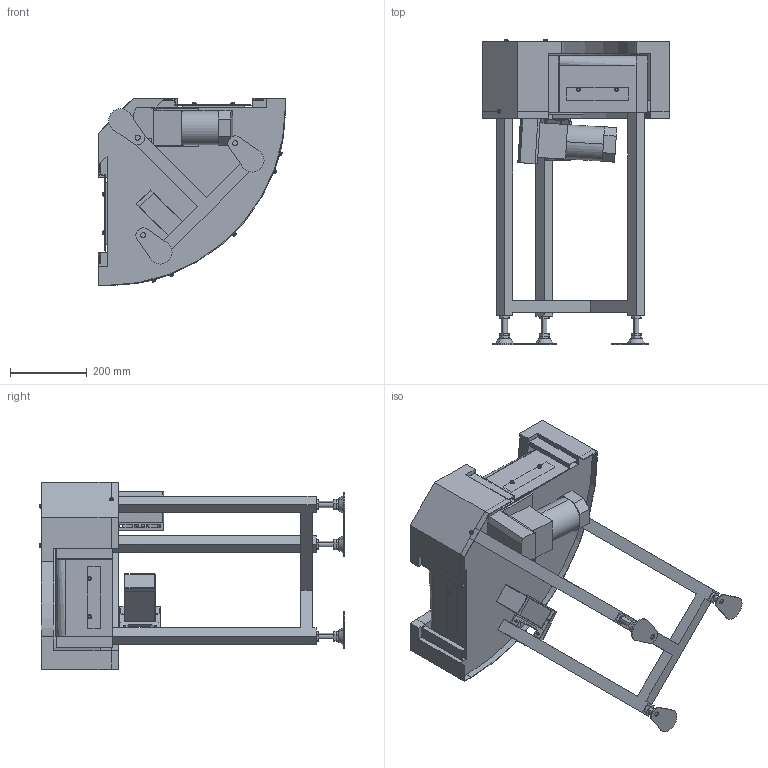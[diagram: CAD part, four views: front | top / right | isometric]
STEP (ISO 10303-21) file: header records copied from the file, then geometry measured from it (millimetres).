
FILE_DESCRIPTION (( 'STEP AP214' ), '1' );
FILE_NAME ('MBC2H-UD-200-R.STEP', '2022-08-22T04:49:34', ( '' ), ( '' ), 'SwSTEP 2.0', 'SolidWorks 2017', '' );
FILE_SCHEMA (( 'AUTOMOTIVE_DESIGN' ));
Length unit declared in the file: millimetre
Products named in the file (1): MBC2H-UD-200-R
Bounding box: 488.1 x 794.6 x 488.1 mm (x, y, z)
Volume: 23437699.6 mm3; surface area: 1835729.9 mm2
Topology: 15 solids, 15 shells, 651 faces, 1568 edges, 1015 vertices
Faces by surface type: plane 370, cylinder 174, bspline 43, cone 30, torus 28, sphere 6
Entity records: 29133 total; most frequent: CARTESIAN_POINT 6641, ORIENTED_EDGE 3120, DIRECTION 3067, EDGE_CURVE 1560, AXIS2_PLACEMENT_3D 1027, VERTEX_POINT 1015, VECTOR 1013, LINE 1013
